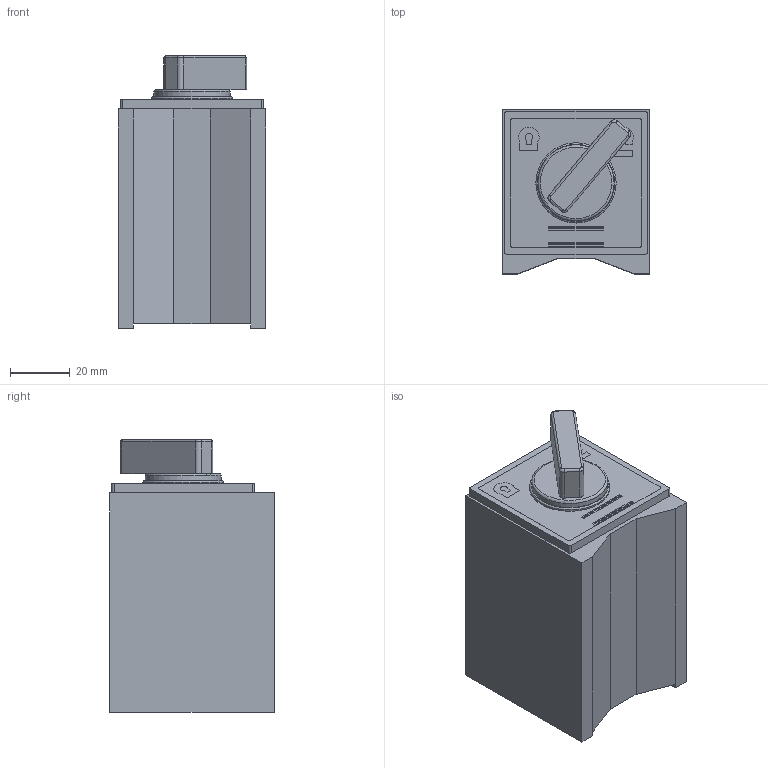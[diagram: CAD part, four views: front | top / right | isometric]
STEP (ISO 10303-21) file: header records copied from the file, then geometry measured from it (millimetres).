
FILE_DESCRIPTION(/* description */ ('MAGNETIC BASE'),/* implementation_level */ '2;1');
FILE_NAME(/* name */ 'C:\Users\Doug Biddinger\Desktop\PL-HDPL-MAG1\60124-MAG BASE.stp',/* time_stamp */ '2018-07-04T13:13:57-04:00',/* author */ ('Doug Biddinger'),/* organization */ (''),/* preprocessor_version */ 'ST-DEVELOPER v17',/* originating_system */ 'Autodesk Inventor 2019',/* authorisation */ '');
FILE_SCHEMA (('CONFIG_CONTROL_DESIGN'));
Length unit declared in the file: inch
Products named in the file (1): #1977
Bounding box: 49.53 x 55.12 x 91.58 mm (x, y, z)
Volume: 199912.4 mm3; surface area: 22923.7 mm2
Topology: 1 solids, 1 shells, 102 faces, 252 edges, 165 vertices
Faces by surface type: plane 73, cylinder 23, bspline 4, torus 2
Full cylindrical faces by diameter (mm): 6.655 x1, 25.527 x1, 26.924 x1
Entity records: 3116 total; most frequent: CARTESIAN_POINT 552, DIRECTION 511, ORIENTED_EDGE 504, EDGE_CURVE 252, LINE 191, VECTOR 191, VERTEX_POINT 165, AXIS2_PLACEMENT_3D 160
